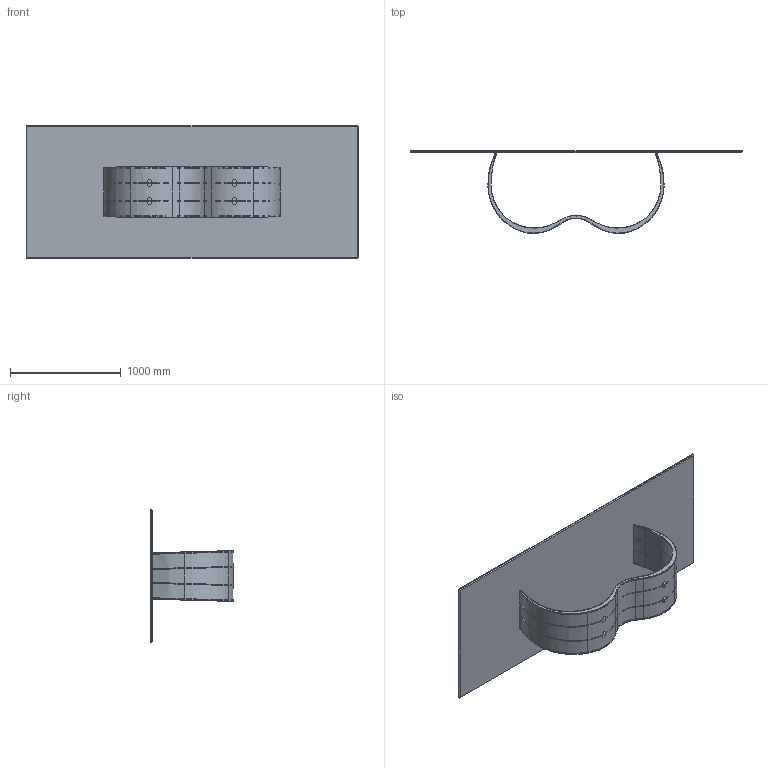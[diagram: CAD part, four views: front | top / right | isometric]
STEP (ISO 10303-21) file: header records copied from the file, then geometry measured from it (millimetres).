
FILE_DESCRIPTION (( 'STEP AP203' ), '1' );
FILE_NAME ('AI24C_Alisei_300x120_Ceramic Rectangular.STEP', '2024-07-31T12:51:49', ( '' ), ( '' ), 'SwSTEP 2.0', 'SolidWorks 2022', '' );
FILE_SCHEMA (( 'CONFIG_CONTROL_DESIGN' ));
Length unit declared in the file: millimetre
Products named in the file (13): AI24C_Alisei_300x120_Ceramic Rectangular; SpecchiaturaSpecchiaturaBASE METALLO CURVATO_MEZZA COSTOLA; SpecchiaturaSpecchiaturaBASE METALLO CURVATO_MEZZA COSTOLA INTERNA; GOMMINO PVC; ALI000001_05-00-APPOGGIO PIANO; ALI000001-00-ALISEI BASE METALLO L300 GREZZO; ALI000001_01-00-LAMIERA CALANDRATA ESTERNA; K2XCMXX-00-Piani Rettangolari in ceramica_3000 x 1200; SpecchiaturaBASE METALLO CURVATO_MEZZA COSTOLA; ALI000001_02-00-LAMIERA CALANDRATA INTERNA; ALI000001_03-00-MEZZA COSTOLA INTERNA; SpecchiaturaBASE METALLO CURVATO_MEZZA COSTOLA INTERNA; ALI000001_04-00-MEZZA COSTOLA
Assembly tree (18 placements, depth 3):
  AI24C_Alisei_300x120_Ceramic Rectangular
    ALI000001-00-ALISEI BASE METALLO L300 GREZZO
      ALI000001_01-00-LAMIERA CALANDRATA ESTERNA
      ALI000001_04-00-MEZZA COSTOLA
      SpecchiaturaBASE METALLO CURVATO_MEZZA COSTOLA  x2
      SpecchiaturaSpecchiaturaBASE METALLO CURVATO_MEZZA COSTOLA
      ALI000001_02-00-LAMIERA CALANDRATA INTERNA
      ALI000001_05-00-APPOGGIO PIANO  x2
      ALI000001_03-00-MEZZA COSTOLA INTERNA
      SpecchiaturaBASE METALLO CURVATO_MEZZA COSTOLA INTERNA  x2
      SpecchiaturaSpecchiaturaBASE METALLO CURVATO_MEZZA COSTOLA INTERNA
    GOMMINO PVC  x4
    K2XCMXX-00-Piani Rettangolari in ceramica_3000 x 1200
Bounding box: 3000 x 747 x 1200 mm (x, y, z)
Volume: 64803814.1 mm3; surface area: 20175556.3 mm2
Topology: 18 solids, 18 shells, 893 faces, 2511 edges, 1654 vertices
Faces by surface type: bspline 397, plane 350, cylinder 130, torus 16
Entity records: 33181 total; most frequent: CARTESIAN_POINT 15826, ORIENTED_EDGE 4276, EDGE_CURVE 2138, DIRECTION 2104, VERTEX_POINT 1413, VECTOR 1074, LINE 1074, EDGE_LOOP 843
